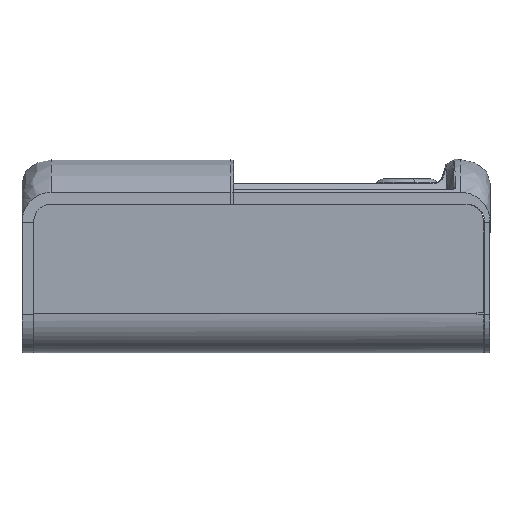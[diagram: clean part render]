
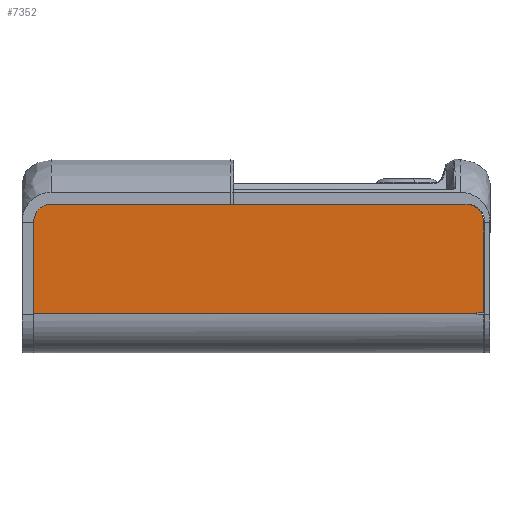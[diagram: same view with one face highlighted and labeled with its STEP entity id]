
A CAD part, left-side view. The second image highlights one B-rep face of the part: STEP entity #7352.
In plain terms, the highlighted planar face has unit normal (-0.999, 0, -0.035).
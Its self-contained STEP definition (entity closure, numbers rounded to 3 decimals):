
#34 = VECTOR ( 'NONE', #4464, 1000. ) ;
#155 = CARTESIAN_POINT ( 'NONE',  ( -40.135, 77.484, 55.4 ) ) ;
#315 = CARTESIAN_POINT ( 'NONE',  ( -40.138, 76.549, 55.5 ) ) ;
#352 = VECTOR ( 'NONE', #9654, 1000. ) ;
#396 = CARTESIAN_POINT ( 'NONE',  ( -40.123, 78.692, 55.064 ) ) ;
#546 = VERTEX_POINT ( 'NONE', #13073 ) ;
#619 = CARTESIAN_POINT ( 'NONE',  ( -39.953, 82.737, 50.207 ) ) ;
#688 = CARTESIAN_POINT ( 'NONE',  ( -39.911, 82.85, 49. ) ) ;
#963 = CARTESIAN_POINT ( 'NONE',  ( -39.908, -85.35, 48.904 ) ) ;
#991 = DIRECTION ( 'NONE',  ( -0.035, 0., 0.999 ) ) ;
#1041 = CARTESIAN_POINT ( 'NONE',  ( -38.2, 82.85, 0. ) ) ;
#1244 = VERTEX_POINT ( 'NONE', #8083 ) ;
#1588 = EDGE_CURVE ( 'NONE', #21097, #4008, #4523, .T. ) ;
#1906 = CARTESIAN_POINT ( 'NONE',  ( -40.125, 78.545, 55.118 ) ) ;
#1991 = CARTESIAN_POINT ( 'NONE',  ( -40.039, 81.728, 52.65 ) ) ;
#2070 = CARTESIAN_POINT ( 'NONE',  ( -40.093, 80.282, 54.195 ) ) ;
#2220 = CARTESIAN_POINT ( 'NONE',  ( -40.037, 81.76, 52.603 ) ) ;
#2369 = CARTESIAN_POINT ( 'NONE',  ( -39.977, 82.573, 50.899 ) ) ;
#2532 = CARTESIAN_POINT ( 'NONE',  ( -39.939, 82.814, 49.792 ) ) ;
#2639 = DIRECTION ( 'NONE',  ( 0., 1., 0. ) ) ;
#2703 = AXIS2_PLACEMENT_3D ( 'NONE', #15643, #18947, #991 ) ;
#2775 = ORIENTED_EDGE ( 'NONE', *, *, #8495, .T. ) ;
#3713 = LINE ( 'NONE', #1041, #34 ) ;
#3804 = CARTESIAN_POINT ( 'NONE',  ( -40.066, 81.105, 53.438 ) ) ;
#3885 = CARTESIAN_POINT ( 'NONE',  ( -40.119, 78.947, 54.963 ) ) ;
#4008 = VERTEX_POINT ( 'NONE', #963 ) ;
#4042 = CARTESIAN_POINT ( 'NONE',  ( -40.019, 82.076, 52.09 ) ) ;
#4128 = ORIENTED_EDGE ( 'NONE', *, *, #19392, .F. ) ;
#4259 = CARTESIAN_POINT ( 'NONE',  ( -38.72, -85.35, 14.887 ) ) ;
#4464 = DIRECTION ( 'NONE',  ( 0.035, 0., -0.999 ) ) ;
#4523 = LINE ( 'NONE', #4259, #16887 ) ;
#4549 = EDGE_LOOP ( 'NONE', ( #7218, #19396, #13682, #21554, #18962, #4128, #2775, #19334 ) ) ;
#5432 = CARTESIAN_POINT ( 'NONE',  ( -38.72, -82.85, 14.887 ) ) ;
#5631 = CARTESIAN_POINT ( 'NONE',  ( -40.001, 82.321, 51.57 ) ) ;
#5780 = CARTESIAN_POINT ( 'NONE',  ( -40.124, 78.644, 55.082 ) ) ;
#5926 = CARTESIAN_POINT ( 'NONE',  ( -39.965, 82.666, 50.543 ) ) ;
#6320 = CARTESIAN_POINT ( 'NONE',  ( -38.706, -82.85, 14.477 ) ) ;
#6681 = EDGE_CURVE ( 'NONE', #16877, #21097, #7509, .T. ) ;
#7218 = ORIENTED_EDGE ( 'NONE', *, *, #18780, .T. ) ;
#7352 = ADVANCED_FACE ( 'NONE', ( #11927 ), #15307, .T. ) ;
#7509 = LINE ( 'NONE', #13855, #21821 ) ;
#7519 = CARTESIAN_POINT ( 'NONE',  ( -40.138, 76.35, 55.5 ) ) ;
#7602 = CARTESIAN_POINT ( 'NONE',  ( -40.136, 77.19, 55.447 ) ) ;
#8083 = CARTESIAN_POINT ( 'NONE',  ( -39.911, 82.85, 49. ) ) ;
#8495 = EDGE_CURVE ( 'NONE', #546, #22165, #19428, .T. ) ;
#8585 = CARTESIAN_POINT ( 'NONE',  ( -40.138, -82.616, 55.5 ) ) ;
#9211 = CARTESIAN_POINT ( 'NONE',  ( -39.996, 82.384, 51.417 ) ) ;
#9290 = CARTESIAN_POINT ( 'NONE',  ( -40.109, 79.532, 54.669 ) ) ;
#9370 = CARTESIAN_POINT ( 'NONE',  ( -40.133, 77.74, 55.353 ) ) ;
#9654 = DIRECTION ( 'NONE',  ( -0.035, 0., 0.999 ) ) ;
#9674 =( BOUNDED_CURVE ( )  B_SPLINE_CURVE ( 3, ( #15825, #8585, #13804, #12176 ),
 .UNSPECIFIED., .F., .F. ) 
 B_SPLINE_CURVE_WITH_KNOTS ( ( 4, 4 ),
 ( 0., 1. ),
 .UNSPECIFIED. ) 
 CURVE ( )  GEOMETRIC_REPRESENTATION_ITEM ( )  RATIONAL_B_SPLINE_CURVE ( ( 1., 0.805, 0.805, 1. ) ) 
 REPRESENTATION_ITEM ( '' )  );
#10638 = CARTESIAN_POINT ( 'NONE',  ( -38.706, 82.85, 14.477 ) ) ;
#10921 = CARTESIAN_POINT ( 'NONE',  ( -40.135, 77.435, 55.409 ) ) ;
#11548 = CARTESIAN_POINT ( 'NONE',  ( -39.954, 82.732, 50.235 ) ) ;
#11927 = FACE_OUTER_BOUND ( 'NONE', #4549, .T. ) ;
#12151 = DIRECTION ( 'NONE',  ( 0., -1., 0. ) ) ;
#12176 = CARTESIAN_POINT ( 'NONE',  ( -39.908, -85.35, 48.904 ) ) ;
#12383 = VECTOR ( 'NONE', #2639, 1000. ) ;
#12390 = EDGE_CURVE ( 'NONE', #18586, #15373, #16882, .T. ) ;
#12663 = CARTESIAN_POINT ( 'NONE',  ( -40.127, 78.397, 55.171 ) ) ;
#12741 = CARTESIAN_POINT ( 'NONE',  ( -40.047, 81.567, 52.879 ) ) ;
#12896 = CARTESIAN_POINT ( 'NONE',  ( -40.057, 81.329, 53.189 ) ) ;
#12976 = CARTESIAN_POINT ( 'NONE',  ( -40.083, 80.629, 53.913 ) ) ;
#13073 = CARTESIAN_POINT ( 'NONE',  ( -40.138, -78.75, 55.5 ) ) ;
#13138 = CARTESIAN_POINT ( 'NONE',  ( -40.138, -82.85, 55.5 ) ) ;
#13331 = DIRECTION ( 'NONE',  ( 0., -1., 0. ) ) ;
#13682 = ORIENTED_EDGE ( 'NONE', *, *, #22136, .T. ) ;
#13804 = CARTESIAN_POINT ( 'NONE',  ( -40.043, -85.35, 52.768 ) ) ;
#13855 = CARTESIAN_POINT ( 'NONE',  ( -38.72, -82.85, 14.887 ) ) ;
#14448 = CARTESIAN_POINT ( 'NONE',  ( -40.103, 79.813, 54.502 ) ) ;
#14530 = CARTESIAN_POINT ( 'NONE',  ( -40.042, 81.665, 52.743 ) ) ;
#14694 = CARTESIAN_POINT ( 'NONE',  ( -40.138, 76.845, 55.486 ) ) ;
#14766 = CARTESIAN_POINT ( 'NONE',  ( -40.029, 81.911, 52.373 ) ) ;
#14917 = CARTESIAN_POINT ( 'NONE',  ( -40.138, 76.35, 55.5 ) ) ;
#15307 = PLANE ( 'NONE',  #2703 ) ;
#15373 = VERTEX_POINT ( 'NONE', #18445 ) ;
#15643 = CARTESIAN_POINT ( 'NONE',  ( -38.2, -82.85, 0. ) ) ;
#15825 = CARTESIAN_POINT ( 'NONE',  ( -40.138, -78.75, 55.5 ) ) ;
#15852 = LINE ( 'NONE', #20346, #352 ) ;
#15857 = EDGE_CURVE ( 'NONE', #22165, #1244, #22857, .T. ) ;
#16469 = CARTESIAN_POINT ( 'NONE',  ( -40.115, 79.245, 54.827 ) ) ;
#16619 = CARTESIAN_POINT ( 'NONE',  ( -40.007, 82.243, 51.746 ) ) ;
#16877 = VERTEX_POINT ( 'NONE', #5432 ) ;
#16882 = LINE ( 'NONE', #6320, #21933 ) ;
#16887 = VECTOR ( 'NONE', #18708, 1000. ) ;
#18186 = CARTESIAN_POINT ( 'NONE',  ( -39.998, 82.352, 51.494 ) ) ;
#18445 = CARTESIAN_POINT ( 'NONE',  ( -38.706, -82.85, 14.477 ) ) ;
#18465 = CARTESIAN_POINT ( 'NONE',  ( -38.72, -85.35, 14.887 ) ) ;
#18571 = CARTESIAN_POINT ( 'NONE',  ( -39.959, 82.706, 50.364 ) ) ;
#18586 = VERTEX_POINT ( 'NONE', #10638 ) ;
#18708 = DIRECTION ( 'NONE',  ( -0.035, 0., 0.999 ) ) ;
#18723 = CARTESIAN_POINT ( 'NONE',  ( -39.956, 82.721, 50.286 ) ) ;
#18780 = EDGE_CURVE ( 'NONE', #1244, #18586, #3713, .T. ) ;
#18947 = DIRECTION ( 'NONE',  ( -0.999, 0., -0.035 ) ) ;
#18962 = ORIENTED_EDGE ( 'NONE', *, *, #1588, .T. ) ;
#19334 = ORIENTED_EDGE ( 'NONE', *, *, #15857, .T. ) ;
#19392 = EDGE_CURVE ( 'NONE', #546, #4008, #9674, .T. ) ;
#19396 = ORIENTED_EDGE ( 'NONE', *, *, #12390, .T. ) ;
#19428 = LINE ( 'NONE', #13138, #12383 ) ;
#19981 = CARTESIAN_POINT ( 'NONE',  ( -39.996, 82.373, 51.444 ) ) ;
#20130 = CARTESIAN_POINT ( 'NONE',  ( -40.134, 77.507, 55.396 ) ) ;
#20281 = CARTESIAN_POINT ( 'NONE',  ( -39.925, 82.85, 49.398 ) ) ;
#20346 = CARTESIAN_POINT ( 'NONE',  ( -38.2, -82.85, 0. ) ) ;
#21097 = VERTEX_POINT ( 'NONE', #18465 ) ;
#21554 = ORIENTED_EDGE ( 'NONE', *, *, #6681, .T. ) ;
#21644 = CARTESIAN_POINT ( 'NONE',  ( -40.13, 78.046, 55.281 ) ) ;
#21726 = CARTESIAN_POINT ( 'NONE',  ( -40.135, 77.361, 55.421 ) ) ;
#21794 = CARTESIAN_POINT ( 'NONE',  ( -39.988, 82.471, 51.197 ) ) ;
#21821 = VECTOR ( 'NONE', #12151, 1000. ) ;
#21871 = CARTESIAN_POINT ( 'NONE',  ( -40.105, 79.721, 54.558 ) ) ;
#21933 = VECTOR ( 'NONE', #13331, 1000. ) ;
#22136 = EDGE_CURVE ( 'NONE', #15373, #16877, #15852, .T. ) ;
#22165 = VERTEX_POINT ( 'NONE', #14917 ) ;
#22857 = B_SPLINE_CURVE_WITH_KNOTS ( 'NONE', 3,
 ( #7519, #315, #14694, #7602, #21726, #10921, #155, #20130, #9370, #21644, #12663, #1906, #5780, #396, #3885, #16469, #9290, #21871, #14448, #2070, #12976, #3804, #12896, #12741, #14530, #1991, #2220, #14766, #4042, #16619, #5631, #18186, #19981, #9211, #21794, #2369, #5926, #18571, #18723, #11548, #619, #2532, #20281, #688 ),
 .UNSPECIFIED., .F., .F.,
 ( 4, 1, 1, 1, 2, 2, 1, 1, 2, 2, 1, 2, 2, 2, 1, 1, 2, 2, 1, 1, 1, 2, 2, 1, 1, 1, 2, 2, 4 ),
 ( 0., 0.062, 0.094, 0.109, 0.117, 0.125, 0.188, 0.219, 0.234, 0.25, 0.313, 0.344, 0.375, 0.5, 0.563, 0.594, 0.609, 0.625, 0.687, 0.719, 0.734, 0.742, 0.75, 0.813, 0.844, 0.859, 0.867, 0.875, 1. ),
 .UNSPECIFIED. ) ;
